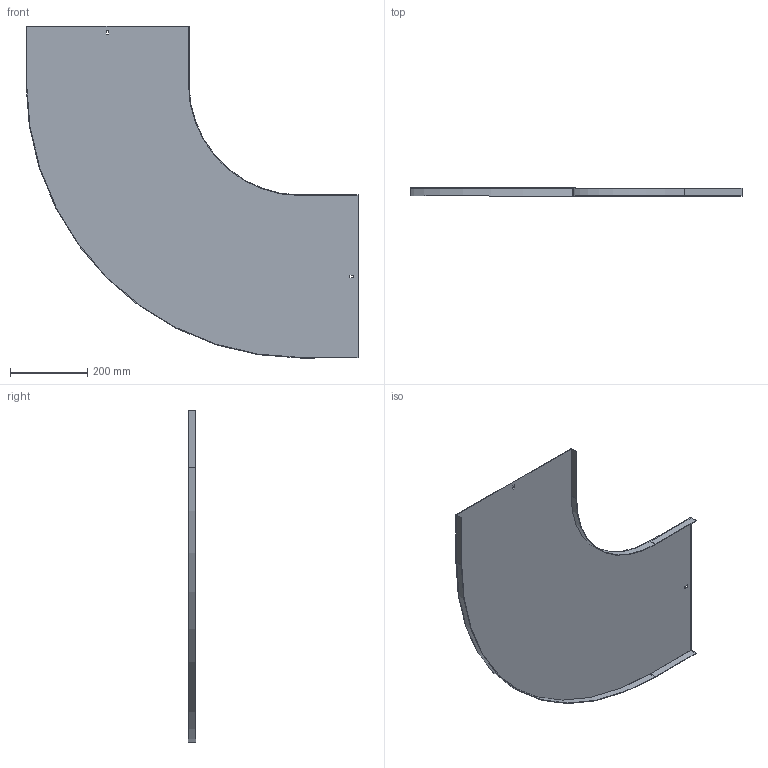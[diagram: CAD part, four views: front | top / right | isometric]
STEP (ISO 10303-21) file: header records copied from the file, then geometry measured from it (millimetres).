
FILE_DESCRIPTION (( 'STEP AP214' ), '1' );
FILE_NAME ('10N3P400.step', '2025-02-21T13:36:39', ( '' ), ( '' ), 'SwSTEP 2.0', 'SolidWorks 2023', '' );
FILE_SCHEMA (( 'AUTOMOTIVE_DESIGN' ));
Length unit declared in the file: millimetre
Products named in the file (1): 10N3P400
Bounding box: 861.5 x 20 x 861.5 mm (x, y, z)
Volume: 748749.2 mm3; surface area: 1003061.5 mm2
Topology: 1 solids, 1 shells, 26 faces, 72 edges, 48 vertices
Faces by surface type: plane 22, cylinder 4
Entity records: 855 total; most frequent: CARTESIAN_POINT 147, ORIENTED_EDGE 144, DIRECTION 134, EDGE_CURVE 72, LINE 64, VECTOR 64, VERTEX_POINT 48, AXIS2_PLACEMENT_3D 35
